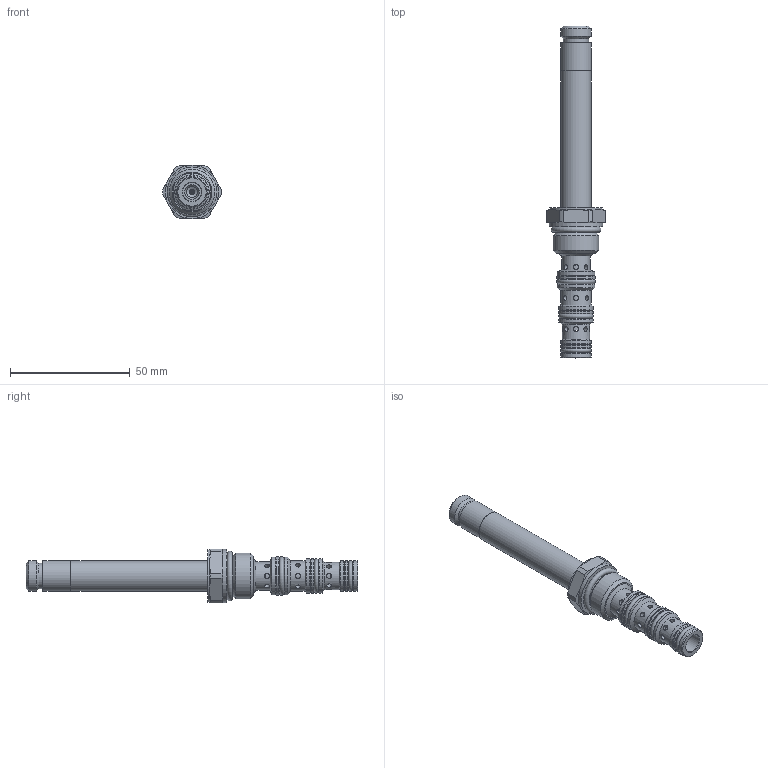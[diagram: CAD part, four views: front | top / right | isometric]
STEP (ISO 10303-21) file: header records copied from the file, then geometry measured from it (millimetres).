
FILE_DESCRIPTION(/* description */ (''),/* implementation_level */ '2;1');
FILE_NAME(/* name */ 'C:\Users\mcooper\OneDrive - Deltrol Corporation\Desktop\DFP_Docs\Deltrol\Catalog Pages - Proportional Valve Line\Website\DPV-080-34M\DPV-080-34M.stp',/* time_stamp */ '2026-01-29T08:21:35-05:00',/* author */ ('mcooper'),/* organization */ (''),/* preprocessor_version */ 'ST-DEVELOPER v18',/* originating_system */ 'Autodesk Inventor 2020',/* authorisation */ '');
FILE_SCHEMA (('AUTOMOTIVE_DESIGN { 1 0 10303 214 3 1 1 }'));
Length unit declared in the file: inch
Products named in the file (1): 10321-10_Shrinkwrap_1
Bounding box: 24.61 x 138.38 x 22.23 mm (x, y, z)
Volume: 16504.9 mm3; surface area: 18112.9 mm2
Topology: 16 solids, 16 shells, 250 faces, 753 edges, 538 vertices
Faces by surface type: cylinder 106, cone 60, plane 54, torus 30
Full cylindrical faces by diameter (mm): 0.381 x1, 1.016 x1, 1.994 x1, 2.007 x16, 2.019 x12, 2.032 x4, 2.045 x1, 3.099 x2, 3.302 x1, 3.454 x1, 3.708 x1, 4.115 x1, 4.42 x1, 4.775 x1, 4.877 x1, 6.35 x3, 6.604 x1, 7.315 x1, 7.823 x1, 7.925 x3, 7.94 x1, 8.179 x2, 9.042 x1, 9.576 x1, 9.906 x1, 10.109 x1, 10.16 x1, 10.211 x1, 10.287 x1, 10.541 x1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
Entity records: 11370 total; most frequent: CARTESIAN_POINT 3898, DIRECTION 1529, ORIENTED_EDGE 1506, EDGE_CURVE 753, AXIS2_PLACEMENT_3D 677, VERTEX_POINT 538, CIRCLE 426, EDGE_LOOP 347
